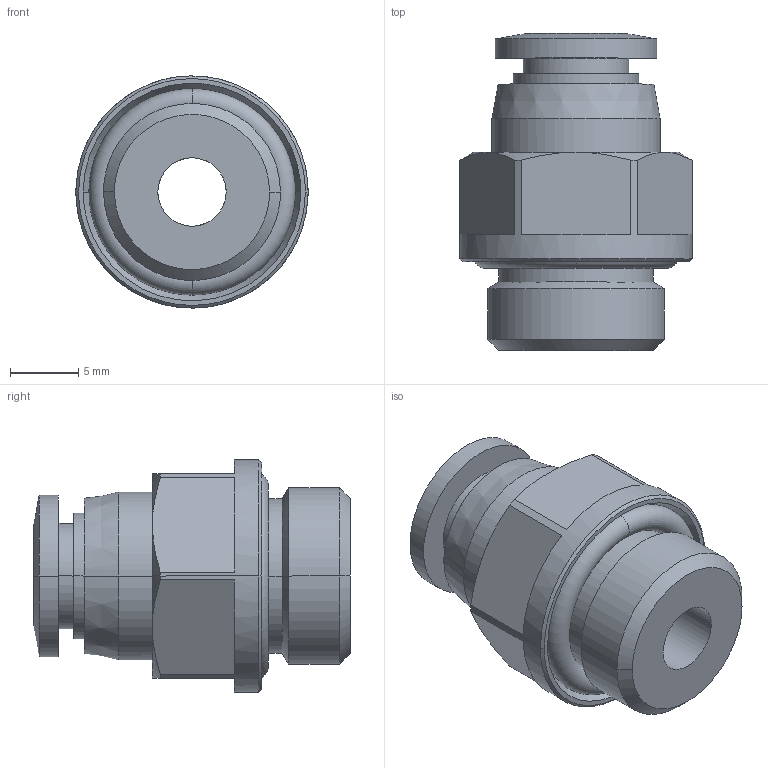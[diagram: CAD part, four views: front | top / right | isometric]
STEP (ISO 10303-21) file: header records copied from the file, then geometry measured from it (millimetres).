
FILE_DESCRIPTION (( 'STEP AP203' ), '1' );
FILE_NAME ('FH06-02.STEP', '2020-04-28T13:37:10', ( '' ), ( '' ), 'SwSTEP 2.0', 'SolidWorks 2019', '' );
FILE_SCHEMA (( 'CONFIG_CONTROL_DESIGN' ));
Length unit declared in the file: millimetre
Products named in the file (1): FH06-02
Bounding box: 17 x 23.2 x 17 mm (x, y, z)
Surface area: 2267.1 mm2 (no closed solid volume)
Topology: 0 solids, 4 shells, 67 faces, 156 edges, 99 vertices
Faces by surface type: plane 22, cylinder 20, cone 19, torus 6
Entity records: 3173 total; most frequent: CARTESIAN_POINT 1806, ORIENTED_EDGE 296, DIRECTION 181, EDGE_CURVE 156, B_SPLINE_CURVE_WITH_KNOTS 117, VERTEX_POINT 99, EDGE_LOOP 77, AXIS2_PLACEMENT_3D 74
